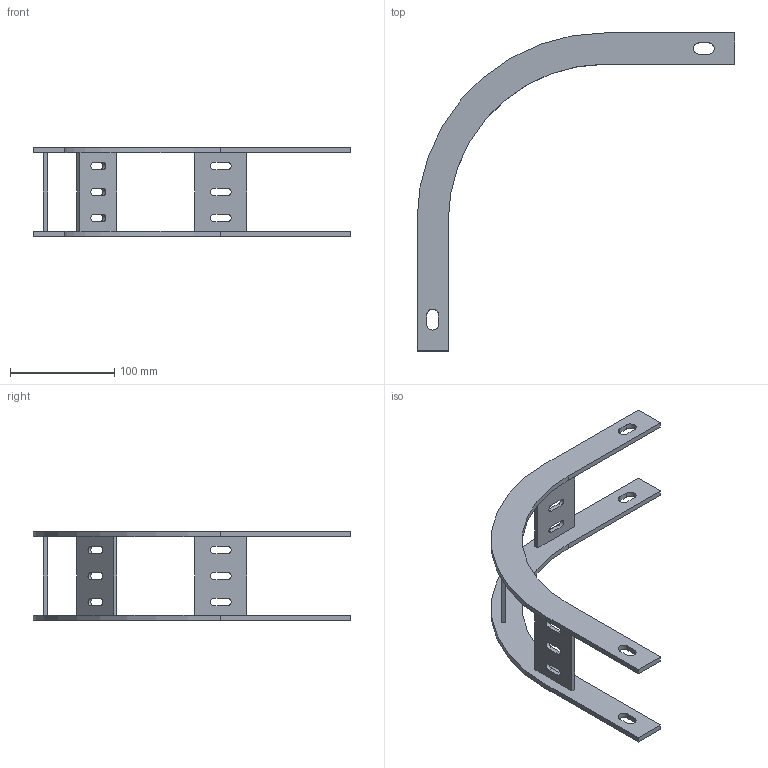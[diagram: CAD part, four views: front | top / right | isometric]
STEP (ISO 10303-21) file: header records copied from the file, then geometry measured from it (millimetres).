
FILE_DESCRIPTION(('Creo Elements/Direct Modeling STEP Export'),'2;1');
FILE_NAME('//pserver/office/EK/ME10-3D/3D-output/SLS 075F.stp','2020-03-10T15:15:03',(''),(''),'PTC Creo Elements/Direct Modeling STEP processor for AP214 (Solid Model)','PTC Creo Elements/Direct Modeling 19.0C 15-Aug-2015 (C) Parametric Technology GmbH','');
FILE_SCHEMA(('AUTOMOTIVE_DESIGN { 1 0 10303 214 1 1 1 1 }'));
Length unit declared in the file: millimetre
Products named in the file (1): SLS_075F
Bounding box: 305 x 305 x 85 mm (x, y, z)
Volume: 189212.3 mm3; surface area: 93881.2 mm2
Topology: 1 solids, 1 shells, 84 faces, 240 edges, 160 vertices
Faces by surface type: plane 54, cylinder 30
Entity records: 2754 total; most frequent: ORIENTED_EDGE 480, CARTESIAN_POINT 469, DIRECTION 446, EDGE_CURVE 240, VECTOR 172, LINE 172, VERTEX_POINT 160, AXIS2_PLACEMENT_3D 137
